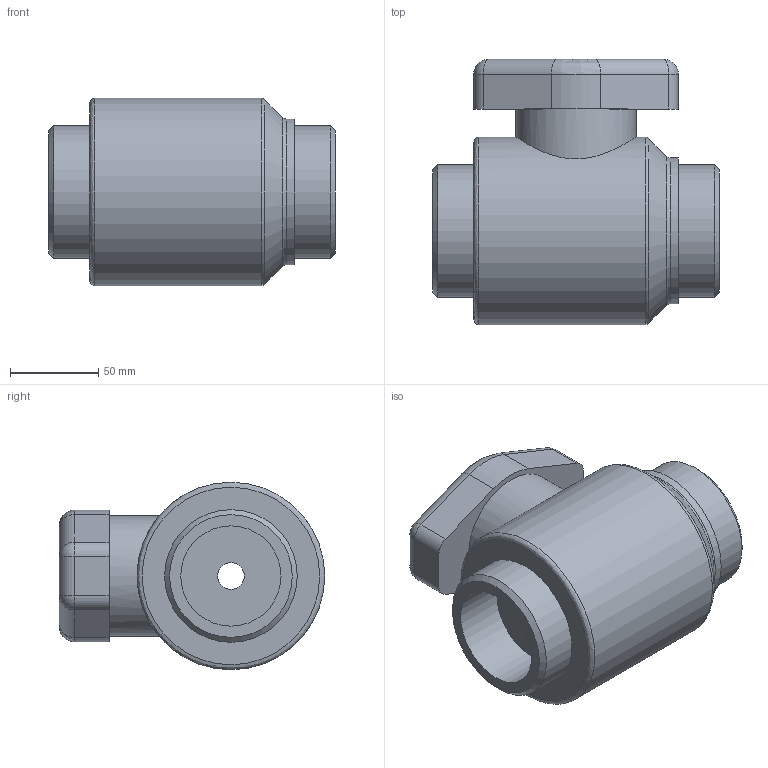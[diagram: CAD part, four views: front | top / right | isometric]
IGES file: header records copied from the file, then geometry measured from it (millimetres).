
Global section: file name: 0370300020_037030F020.ipt; native system: Autodesk Inventor 2015; preprocessor: unknown; author: KIM; date: 20190627.094231; units: millimetre
Bounding box: 162 x 150 x 106 mm (x, y, z)
Volume: 1264092.2 mm3; surface area: 95577.3 mm2
Topology: 1 solids, 1 shells, 46 faces, 106 edges, 67 vertices
Faces by surface type: cylinder 17, plane 14, revolution 8, sphere 4, cone 3
Full cylindrical faces by diameter (mm): 67.987 x1, 75 x2, 82.5 x1, 106 x1
